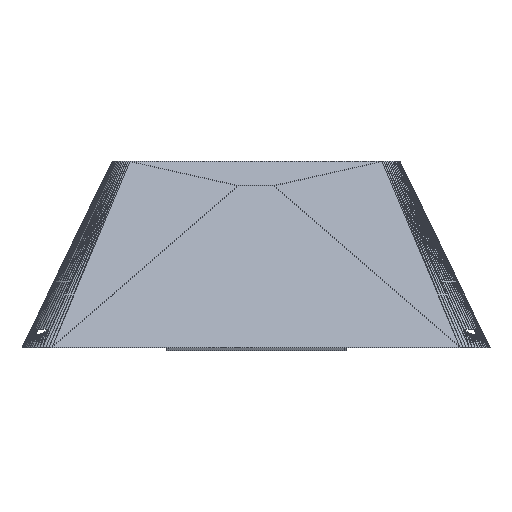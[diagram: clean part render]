
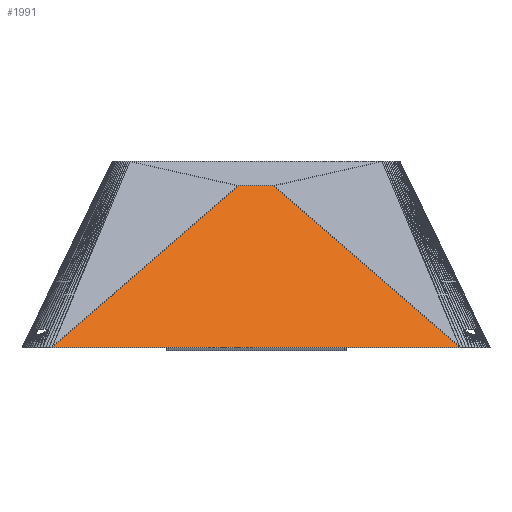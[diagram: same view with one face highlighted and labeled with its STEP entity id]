
A CAD part, front view. The second image highlights one B-rep face of the part: STEP entity #1991.
In plain terms, the highlighted planar face has unit normal (0, -0.9, 0.436).
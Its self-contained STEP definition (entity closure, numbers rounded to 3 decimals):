
#379 = EDGE_CURVE('',#380,#382,#384,.T.);
#380 = VERTEX_POINT('',#381);
#381 = CARTESIAN_POINT('',(146.,0.,0.1));
#382 = VERTEX_POINT('',#383);
#383 = CARTESIAN_POINT('',(10.,0.,0.1));
#384 = SURFACE_CURVE('',#385,(#389,#401),.PCURVE_S1.);
#385 = LINE('',#386,#387);
#386 = CARTESIAN_POINT('',(146.,0.,0.1));
#387 = VECTOR('',#388,1.);
#388 = DIRECTION('',(-1.,0.,0.));
#389 = PCURVE('',#390,#395);
#390 = PLANE('',#391);
#391 = AXIS2_PLACEMENT_3D('',#392,#393,#394);
#392 = CARTESIAN_POINT('',(77.975,0.,0.075));
#393 = DIRECTION('',(-0.,-1.,-0.));
#394 = DIRECTION('',(0.,0.,-1.));
#395 = DEFINITIONAL_REPRESENTATION('',(#396),#400);
#396 = LINE('',#397,#398);
#397 = CARTESIAN_POINT('',(-0.025,68.025));
#398 = VECTOR('',#399,1.);
#399 = DIRECTION('',(0.,-1.));
#400 = ( GEOMETRIC_REPRESENTATION_CONTEXT(2) 
PARAMETRIC_REPRESENTATION_CONTEXT() REPRESENTATION_CONTEXT('2D SPACE',''
  ) );
#401 = PCURVE('',#402,#407);
#402 = PLANE('',#403);
#403 = AXIS2_PLACEMENT_3D('',#404,#405,#406);
#404 = CARTESIAN_POINT('',(46.251,13.84,
    28.656));
#405 = DIRECTION('',(-0.,-0.9,0.436));
#406 = DIRECTION('',(0.,-0.436,-0.9));
#407 = DEFINITIONAL_REPRESENTATION('',(#408),#412);
#408 = LINE('',#409,#410);
#409 = CARTESIAN_POINT('',(31.733,99.749));
#410 = VECTOR('',#411,1.);
#411 = DIRECTION('',(-0.,-1.));
#412 = ( GEOMETRIC_REPRESENTATION_CONTEXT(2) 
PARAMETRIC_REPRESENTATION_CONTEXT() REPRESENTATION_CONTEXT('2D SPACE',''
  ) );
#1938 = VERTEX_POINT('',#1939);
#1939 = CARTESIAN_POINT('',(72.,26.061,53.873));
#1953 = PLANE('',#1954);
#1954 = AXIS2_PLACEMENT_3D('',#1955,#1956,#1957);
#1955 = CARTESIAN_POINT('',(36.725,16.596,
    34.343));
#1956 = DIRECTION('',(0.,-0.9,0.436)
  );
#1957 = DIRECTION('',(0.,-0.436,-0.9));
#1991 = ADVANCED_FACE('',(#1992),#402,.T.);
#1992 = FACE_BOUND('',#1993,.T.);
#1993 = EDGE_LOOP('',(#1994,#2015,#2016,#2044));
#1994 = ORIENTED_EDGE('',*,*,#1995,.F.);
#1995 = EDGE_CURVE('',#382,#1938,#1996,.T.);
#1996 = SURFACE_CURVE('',#1997,(#2001,#2008),.PCURVE_S1.);
#1997 = LINE('',#1998,#1999);
#1998 = CARTESIAN_POINT('',(10.,0.,0.1));
#1999 = VECTOR('',#2000,1.);
#2000 = DIRECTION('',(0.72,0.303,0.624));
#2001 = PCURVE('',#402,#2002);
#2002 = DEFINITIONAL_REPRESENTATION('',(#2003),#2007);
#2003 = LINE('',#2004,#2005);
#2004 = CARTESIAN_POINT('',(31.733,-36.251));
#2005 = VECTOR('',#2006,1.);
#2006 = DIRECTION('',(-0.694,0.72));
#2007 = ( GEOMETRIC_REPRESENTATION_CONTEXT(2) 
PARAMETRIC_REPRESENTATION_CONTEXT() REPRESENTATION_CONTEXT('2D SPACE',''
  ) );
#2008 = PCURVE('',#1953,#2009);
#2009 = DEFINITIONAL_REPRESENTATION('',(#2010),#2014);
#2010 = LINE('',#2011,#2012);
#2011 = CARTESIAN_POINT('',(38.053,-26.725));
#2012 = VECTOR('',#2013,1.);
#2013 = DIRECTION('',(-0.694,0.72));
#2014 = ( GEOMETRIC_REPRESENTATION_CONTEXT(2) 
PARAMETRIC_REPRESENTATION_CONTEXT() REPRESENTATION_CONTEXT('2D SPACE',''
  ) );
#2015 = ORIENTED_EDGE('',*,*,#379,.F.);
#2016 = ORIENTED_EDGE('',*,*,#2017,.T.);
#2017 = EDGE_CURVE('',#380,#2018,#2020,.T.);
#2018 = VERTEX_POINT('',#2019);
#2019 = CARTESIAN_POINT('',(84.,26.061,53.873));
#2020 = SURFACE_CURVE('',#2021,(#2025,#2032),.PCURVE_S1.);
#2021 = LINE('',#2022,#2023);
#2022 = CARTESIAN_POINT('',(146.,0.,0.1));
#2023 = VECTOR('',#2024,1.);
#2024 = DIRECTION('',(-0.72,0.303,0.624));
#2025 = PCURVE('',#402,#2026);
#2026 = DEFINITIONAL_REPRESENTATION('',(#2027),#2031);
#2027 = LINE('',#2028,#2029);
#2028 = CARTESIAN_POINT('',(31.733,99.749));
#2029 = VECTOR('',#2030,1.);
#2030 = DIRECTION('',(-0.694,-0.72));
#2031 = ( GEOMETRIC_REPRESENTATION_CONTEXT(2) 
PARAMETRIC_REPRESENTATION_CONTEXT() REPRESENTATION_CONTEXT('2D SPACE',''
  ) );
#2032 = PCURVE('',#2033,#2038);
#2033 = PLANE('',#2034);
#2034 = AXIS2_PLACEMENT_3D('',#2035,#2036,#2037);
#2035 = CARTESIAN_POINT('',(119.275,16.596,
    34.343));
#2036 = DIRECTION('',(0.,-0.9,0.436
    ));
#2037 = DIRECTION('',(0.,-0.436,-0.9));
#2038 = DEFINITIONAL_REPRESENTATION('',(#2039),#2043);
#2039 = LINE('',#2040,#2041);
#2040 = CARTESIAN_POINT('',(38.053,26.725));
#2041 = VECTOR('',#2042,1.);
#2042 = DIRECTION('',(-0.694,-0.72));
#2043 = ( GEOMETRIC_REPRESENTATION_CONTEXT(2) 
PARAMETRIC_REPRESENTATION_CONTEXT() REPRESENTATION_CONTEXT('2D SPACE',''
  ) );
#2044 = ORIENTED_EDGE('',*,*,#2045,.F.);
#2045 = EDGE_CURVE('',#1938,#2018,#2046,.T.);
#2046 = SURFACE_CURVE('',#2047,(#2051,#2058),.PCURVE_S1.);
#2047 = LINE('',#2048,#2049);
#2048 = CARTESIAN_POINT('',(72.,26.061,53.873));
#2049 = VECTOR('',#2050,1.);
#2050 = DIRECTION('',(1.,0.,0.));
#2051 = PCURVE('',#402,#2052);
#2052 = DEFINITIONAL_REPRESENTATION('',(#2053),#2057);
#2053 = LINE('',#2054,#2055);
#2054 = CARTESIAN_POINT('',(-28.022,25.749));
#2055 = VECTOR('',#2056,1.);
#2056 = DIRECTION('',(0.,1.));
#2057 = ( GEOMETRIC_REPRESENTATION_CONTEXT(2) 
PARAMETRIC_REPRESENTATION_CONTEXT() REPRESENTATION_CONTEXT('2D SPACE',''
  ) );
#2058 = PCURVE('',#2059,#2064);
#2059 = PLANE('',#2060);
#2060 = AXIS2_PLACEMENT_3D('',#2061,#2062,#2063);
#2061 = CARTESIAN_POINT('',(77.968,26.061,53.968));
#2062 = DIRECTION('',(-0.,-1.,-0.));
#2063 = DIRECTION('',(0.,0.,-1.));
#2064 = DEFINITIONAL_REPRESENTATION('',(#2065),#2069);
#2065 = LINE('',#2066,#2067);
#2066 = CARTESIAN_POINT('',(0.095,-5.968));
#2067 = VECTOR('',#2068,1.);
#2068 = DIRECTION('',(0.,1.));
#2069 = ( GEOMETRIC_REPRESENTATION_CONTEXT(2) 
PARAMETRIC_REPRESENTATION_CONTEXT() REPRESENTATION_CONTEXT('2D SPACE',''
  ) );
